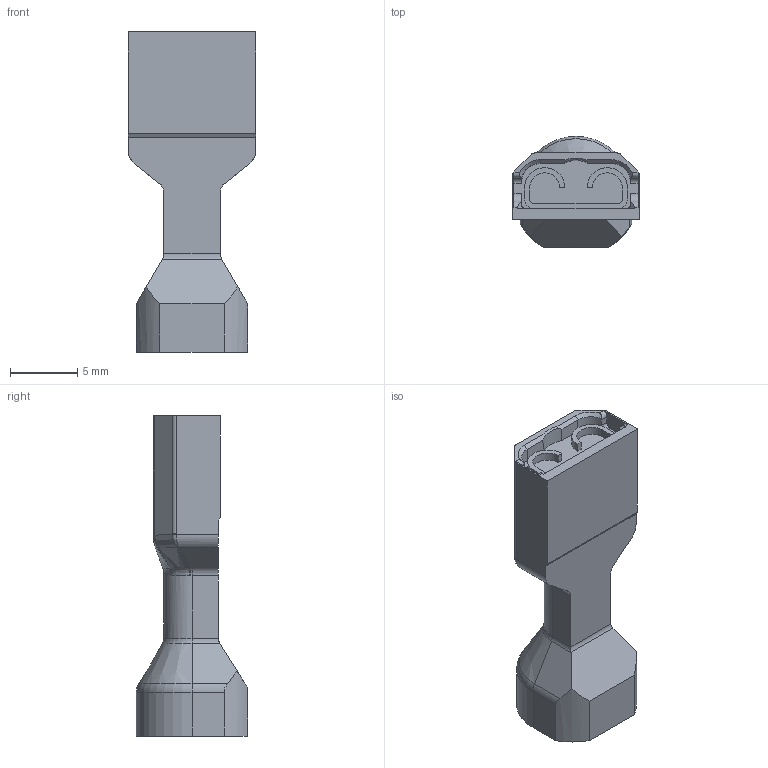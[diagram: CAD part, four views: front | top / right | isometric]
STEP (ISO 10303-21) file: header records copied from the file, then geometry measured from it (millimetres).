
FILE_DESCRIPTION((''),'2;1');
FILE_NAME('C-3-520140-2','2019-09-26T05:15:23',('workeradm'),('TE Connectivity Ltd.'),'CREO PARAMETRIC BY PTC INC, 2019030','CREO PARAMETRIC BY PTC INC, 2019030','');
FILE_SCHEMA(('AUTOMOTIVE_DESIGN { 1 0 10303 214 1 1 1 1 }'));
Length unit declared in the file: millimetre
Products named in the file (1): C-3-520140-2
Bounding box: 9.47 x 8.26 x 23.77 mm (x, y, z)
Volume: 815.3 mm3; surface area: 733.7 mm2
Topology: 1 solids, 1 shells, 126 faces, 328 edges, 206 vertices
Faces by surface type: plane 47, cylinder 38, bspline 34, cone 5, torus 2
Entity records: 5352 total; most frequent: CARTESIAN_POINT 2289, ORIENTED_EDGE 656, DIRECTION 488, EDGE_CURVE 328, VERTEX_POINT 206, AXIS2_PLACEMENT_3D 169, VECTOR 150, LINE 150
